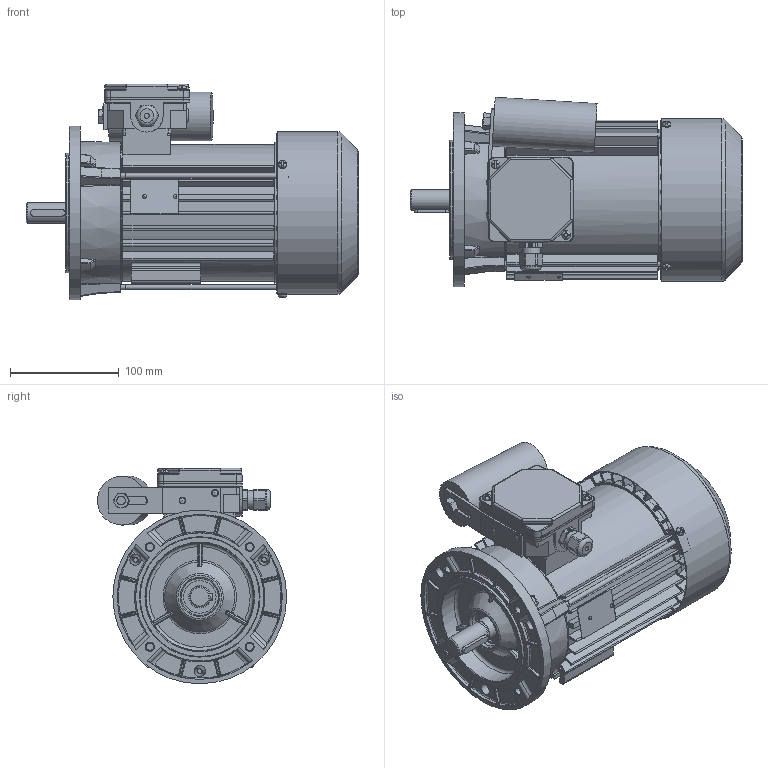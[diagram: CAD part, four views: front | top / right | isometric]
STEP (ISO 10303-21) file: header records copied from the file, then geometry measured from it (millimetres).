
FILE_DESCRIPTION(/* description */ ('Unknown'),/* implementation_level */ '2;1');
FILE_NAME(/* name */ '3SSIEK80-4B1',/* time_stamp */ '2024-06-18T09:37:59+02:00',/* author */ ('Unknown'),/* organization */ ('Unknown'),/* preprocessor_version */ 'ST-DEVELOPER v16.7',/* originating_system */ 'Solid Edge',/* authorisation */ 'Unknown');
FILE_SCHEMA (('AUTOMOTIVE_DESIGN {1 0 10303 214 3 1 1}'));
Products named in the file (1): Czêœæ14
Bounding box: 305.79 x 174.3 x 198.5 mm (x, y, z)
Volume: 1126221.3 mm3; surface area: 566668.5 mm2
Topology: 4 solids, 4 shells, 2792 faces, 7673 edges, 4897 vertices
Faces by surface type: plane 1235, cylinder 829, bspline 394, cone 154, torus 152, sphere 28
Full cylindrical faces by diameter (mm): 2 x2, 2.4 x2, 3 x2, 3.7 x8, 4 x5, 4.2 x3, 4.3 x2, 4.5 x4, 4.6 x3, 4.8 x2, 5 x5, 5.5 x3, 6 x2, 6.5 x1, 6.8 x4, 8 x10, 14.38 x1, 16 x1, 17.2 x1, 18.376 x1, 18.598 x1, 18.998 x1, 19 x1, 19.298 x1, 19.498 x1, 19.898 x1, 19.948 x1, 19.998 x2, 20.4 x2, 25.497 x1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
Entity records: 111385 total; most frequent: CARTESIAN_POINT 26562, ORIENTED_EDGE 14484, DIRECTION 13034, EDGE_CURVE 7242, AXIS2_PLACEMENT_3D 4871, VERTEX_POINT 4756, FACE_BOUND 3314, EDGE_LOOP 3311
